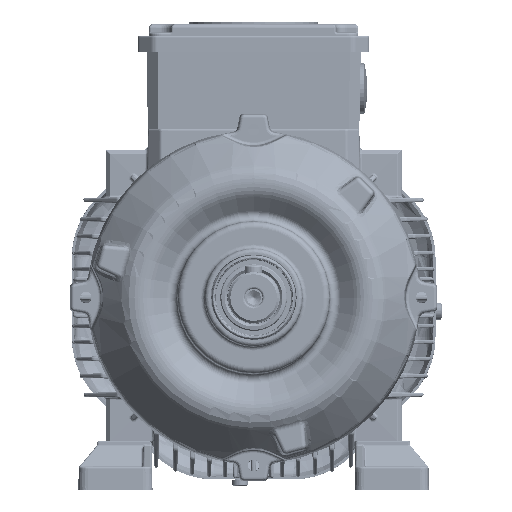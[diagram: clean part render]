
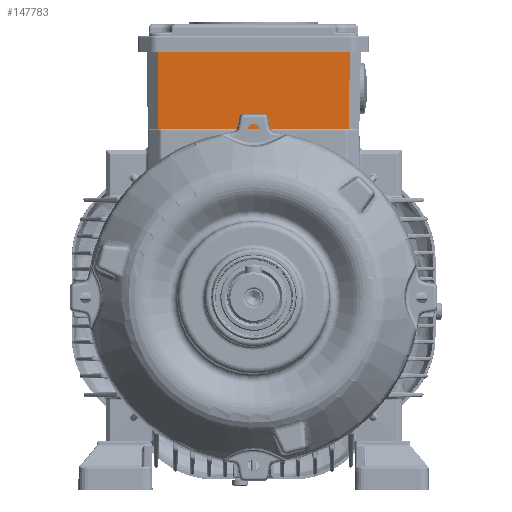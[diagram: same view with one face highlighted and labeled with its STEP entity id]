
A CAD part, left-side view. The second image highlights one B-rep face of the part: STEP entity #147783.
In plain terms, the highlighted planar face has unit normal (-1, 0, -0.018).
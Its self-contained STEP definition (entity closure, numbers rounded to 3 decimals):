
#11016=FACE_OUTER_BOUND('',#56148,.T.);
#19967=LINE('',#359003,#28641);
#20022=LINE('',#359130,#28696);
#20024=LINE('',#359134,#28698);
#20025=LINE('',#359136,#28699);
#28641=VECTOR('',#229540,1.);
#28696=VECTOR('',#229631,1.);
#28698=VECTOR('',#229635,1.);
#28699=VECTOR('',#229638,1.);
#46529=PLANE('',#190669);
#56148=EDGE_LOOP('',(#97306,#97307,#97308,#97309));
#97306=ORIENTED_EDGE('',*,*,#129505,.T.);
#97307=ORIENTED_EDGE('',*,*,#129508,.F.);
#97308=ORIENTED_EDGE('',*,*,#129442,.F.);
#97309=ORIENTED_EDGE('',*,*,#129507,.T.);
#129442=EDGE_CURVE('',#163845,#163846,#19967,.T.);
#129505=EDGE_CURVE('',#163900,#163899,#20022,.T.);
#129507=EDGE_CURVE('',#163845,#163900,#20024,.T.);
#129508=EDGE_CURVE('',#163846,#163899,#20025,.T.);
#147783=ADVANCED_FACE('',(#11016),#46529,.T.);
#163845=VERTEX_POINT('',#359002);
#163846=VERTEX_POINT('',#359004);
#163899=VERTEX_POINT('',#359129);
#163900=VERTEX_POINT('',#359131);
#190669=AXIS2_PLACEMENT_3D('',#359137,#229639,#229640);
#229540=DIRECTION('',(0.,1.,0.));
#229631=DIRECTION('',(0.,1.,0.));
#229635=DIRECTION('',(-0.017,-0.007,1.));
#229638=DIRECTION('',(-0.017,0.007,1.));
#229639=DIRECTION('',(-1.,0.,-0.017));
#229640=DIRECTION('',(0.017,0.,-1.));
#359002=CARTESIAN_POINT('',(17.501,-26.902,162.211));
#359003=CARTESIAN_POINT('',(17.501,-26.902,162.211));
#359004=CARTESIAN_POINT('',(17.501,63.441,162.211));
#359129=CARTESIAN_POINT('',(16.812,63.727,201.711));
#359130=CARTESIAN_POINT('',(16.812,-26.902,201.711));
#359131=CARTESIAN_POINT('',(16.812,-27.187,201.711));
#359134=CARTESIAN_POINT('',(17.501,-26.902,162.211));
#359136=CARTESIAN_POINT('',(17.501,63.441,162.211));
#359137=CARTESIAN_POINT('',(17.501,-26.902,162.211));
